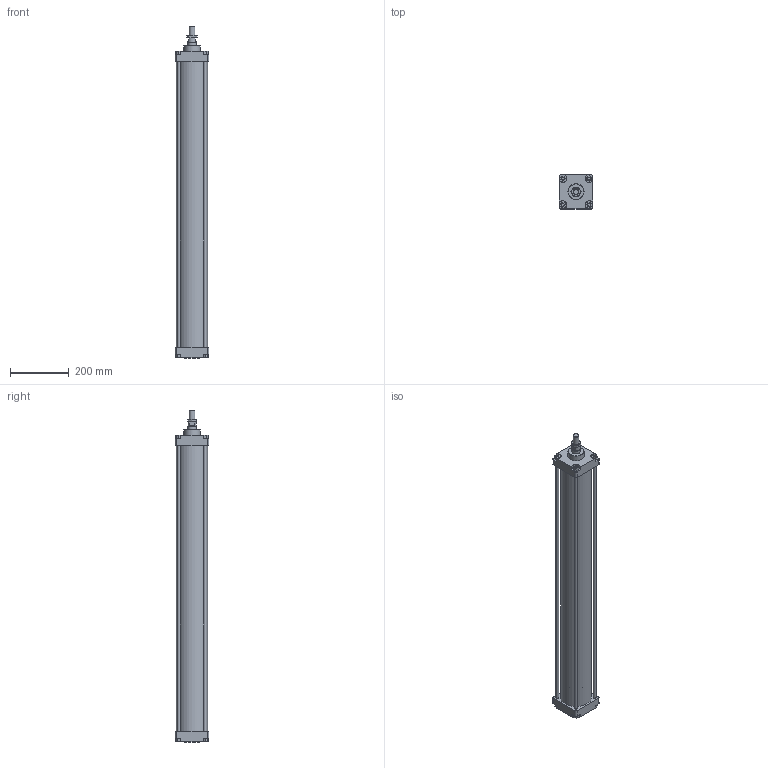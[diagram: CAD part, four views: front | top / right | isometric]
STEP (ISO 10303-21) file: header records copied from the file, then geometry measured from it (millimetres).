
FILE_DESCRIPTION(/* description */ (''),/* implementation_level */ '2;1');
FILE_NAME(/* name */ 'I:\Area Tecnica\Disegni\VARIE-3D\Componenti\CSP\Ø100\130#_100_####_###\130#_100_0900_01A.stp',/* time_stamp */ '2016-11-24T13:52:38+01:00',/* author */ ('Maniean1'),/* organization */ ('Pneumax S.p.A.'),/* preprocessor_version */ 'ST-DEVELOPER v15.2',/* originating_system */ 'Autodesk Inventor 2014',/* authorisation */ '');
FILE_SCHEMA (('AUTOMOTIVE_DESIGN { 1 0 10303 214 3 1 1 }'));
Length unit declared in the file: millimetre
Products named in the file (6): C_130#_100_0900; Testata anteriore_100; Testata posteriore_100; S_130#_100_0900_01A; 130#_100_18F; 130#_100_0900_01A
Bounding box: 115 x 115 x 1134 mm (x, y, z)
Volume: 3397977 mm3; surface area: 1004308.6 mm2
Topology: 9 solids, 9 shells, 162 faces, 380 edges, 249 vertices
Faces by surface type: plane 105, cylinder 42, cone 15
Full cylindrical faces by diameter (mm): 10 x12, 18.376 x1, 18.5 x1, 19 x2, 20 x1, 28 x1, 30 x3, 55 x2, 100 x2, 106 x1
Entity records: 4530 total; most frequent: CARTESIAN_POINT 785, DIRECTION 764, ORIENTED_EDGE 672, EDGE_CURVE 336, AXIS2_PLACEMENT_3D 271, VERTEX_POINT 244, EDGE_LOOP 236, LINE 222
